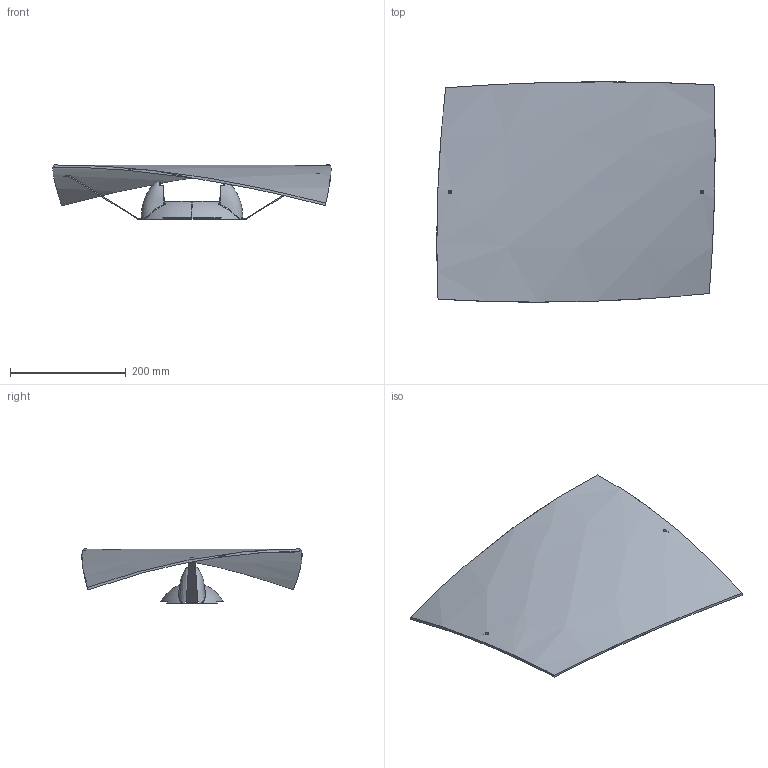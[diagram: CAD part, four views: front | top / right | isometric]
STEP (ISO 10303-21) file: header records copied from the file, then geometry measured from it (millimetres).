
FILE_DESCRIPTION (( 'STEP AP203' ), '1' );
FILE_NAME ('019_GRANDE_W_PL_3D.STEP', '2025-04-15T11:32:05', ( '' ), ( '' ), 'SwSTEP 2.0', 'SolidWorks 2024', '' );
FILE_SCHEMA (( 'CONFIG_CONTROL_DESIGN' ));
Products named in the file (1): 019_GRANDE_W_PL_3D
Bounding box: 480 x 380 x 93.5 mm (x, y, z)
Surface area: 436111.1 mm2 (no closed solid volume)
Topology: 0 solids, 297 shells, 388 faces, 2561 edges, 2465 vertices
Faces by surface type: bspline 262, plane 77, cylinder 47, cone 2
Entity records: 127662 total; most frequent: CARTESIAN_POINT 114128, ORIENTED_EDGE 2775, EDGE_CURVE 2554, VERTEX_POINT 2464, B_SPLINE_CURVE_WITH_KNOTS 2174, DIRECTION 700, EDGE_LOOP 415, ADVANCED_FACE 387
